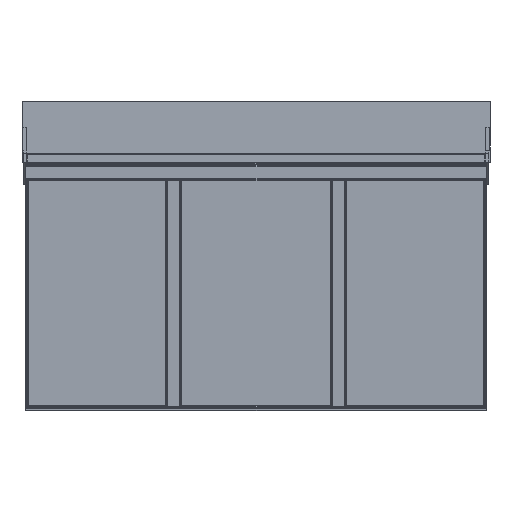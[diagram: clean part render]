
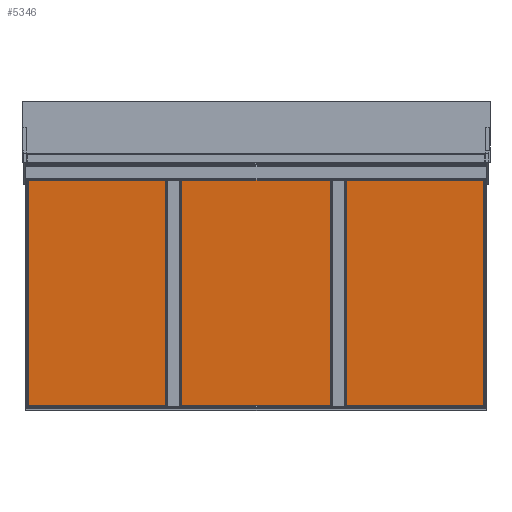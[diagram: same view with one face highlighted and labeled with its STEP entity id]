
A CAD part, front view. The second image highlights one B-rep face of the part: STEP entity #5346.
In plain terms, the highlighted planar face has unit normal (0, -0.999, -0.035) as drawn and (0, -1, 0) by its records, which use the part's own axes.
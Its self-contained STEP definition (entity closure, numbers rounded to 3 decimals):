
#7 = PLANE ( 'NONE',  #15355 ) ;
#198 = DIRECTION ( 'NONE',  ( 0., 0., 1. ) ) ;
#217 = VECTOR ( 'NONE', #5908, 1000. ) ;
#260 = VECTOR ( 'NONE', #20249, 1000. ) ;
#412 = CARTESIAN_POINT ( 'NONE',  ( 158.5, -1., -298.5 ) ) ;
#469 = ORIENTED_EDGE ( 'NONE', *, *, #20324, .F. ) ;
#527 = CARTESIAN_POINT ( 'NONE',  ( -137.5, -1., -296. ) ) ;
#1088 = VECTOR ( 'NONE', #198, 1000. ) ;
#1266 = ORIENTED_EDGE ( 'NONE', *, *, #13254, .F. ) ;
#1478 = ORIENTED_EDGE ( 'NONE', *, *, #16282, .F. ) ;
#1748 = VECTOR ( 'NONE', #8310, 1000. ) ;
#2360 = VERTEX_POINT ( 'NONE', #12044 ) ;
#2834 = ORIENTED_EDGE ( 'NONE', *, *, #11092, .F. ) ;
#2964 = ORIENTED_EDGE ( 'NONE', *, *, #11421, .F. ) ;
#2990 = VERTEX_POINT ( 'NONE', #5406 ) ;
#3003 = ORIENTED_EDGE ( 'NONE', *, *, #8050, .F. ) ;
#3014 = DIRECTION ( 'NONE',  ( -1., 0., 0. ) ) ;
#3178 = VERTEX_POINT ( 'NONE', #16548 ) ;
#3220 = VERTEX_POINT ( 'NONE', #14974 ) ;
#3223 = LINE ( 'NONE', #11265, #1748 ) ;
#3258 = DIRECTION ( 'NONE',  ( 0., 0., 1. ) ) ;
#3390 = VECTOR ( 'NONE', #3014, 1000. ) ;
#3713 = VECTOR ( 'NONE', #12338, 1000. ) ;
#3798 = CARTESIAN_POINT ( 'NONE',  ( -138., -1., -296. ) ) ;
#3910 = CARTESIAN_POINT ( 'NONE',  ( 156.5, -1., -296.5 ) ) ;
#3983 = EDGE_LOOP ( 'NONE', ( #6770, #469, #2834, #15645, #2964, #18740, #3003, #1478, #16850, #14971, #1266, #12271 ) ) ;
#4098 = VERTEX_POINT ( 'NONE', #4144 ) ;
#4144 = CARTESIAN_POINT ( 'NONE',  ( -138., -1., 298.5 ) ) ;
#4389 = CARTESIAN_POINT ( 'NONE',  ( 157.499, -1., -296.5 ) ) ;
#4513 = CARTESIAN_POINT ( 'NONE',  ( 156.5, -1., 297.499 ) ) ;
#4536 = VERTEX_POINT ( 'NONE', #3798 ) ;
#4650 = EDGE_CURVE ( 'NONE', #4949, #13638, #6314, .T. ) ;
#4842 = LINE ( 'NONE', #19204, #10393 ) ;
#4949 = VERTEX_POINT ( 'NONE', #15889 ) ;
#5346 = ADVANCED_FACE ( 'NONE', ( #9334 ), #7, .T. ) ;
#5406 = CARTESIAN_POINT ( 'NONE',  ( -156.5, -1., 298.5 ) ) ;
#5621 = VECTOR ( 'NONE', #20804, 1000. ) ;
#5908 = DIRECTION ( 'NONE',  ( 1., 0., 0. ) ) ;
#6314 = LINE ( 'NONE', #8347, #1088 ) ;
#6483 = LINE ( 'NONE', #4389, #3390 ) ;
#6493 = CARTESIAN_POINT ( 'NONE',  ( -137.5, -1., 296.5 ) ) ;
#6770 = ORIENTED_EDGE ( 'NONE', *, *, #8007, .F. ) ;
#6930 = VECTOR ( 'NONE', #15732, 1000. ) ;
#6981 = DIRECTION ( 'NONE',  ( -1., 0., 0. ) ) ;
#7463 = LINE ( 'NONE', #16852, #3713 ) ;
#7796 = DIRECTION ( 'NONE',  ( 0., 0., -1. ) ) ;
#7815 = LINE ( 'NONE', #17101, #6930 ) ;
#8007 = EDGE_CURVE ( 'NONE', #2990, #4098, #7463, .T. ) ;
#8050 = EDGE_CURVE ( 'NONE', #18287, #4949, #6483, .T. ) ;
#8060 = CARTESIAN_POINT ( 'NONE',  ( 0., -1., 0. ) ) ;
#8310 = DIRECTION ( 'NONE',  ( 0., 0., 1. ) ) ;
#8347 = CARTESIAN_POINT ( 'NONE',  ( -137.5, -1., -296.5 ) ) ;
#8959 = VECTOR ( 'NONE', #6981, 1000. ) ;
#9334 = FACE_OUTER_BOUND ( 'NONE', #3983, .T. ) ;
#9398 = CARTESIAN_POINT ( 'NONE',  ( -138., -1., 296. ) ) ;
#9443 = DIRECTION ( 'NONE',  ( 0., 0., -1. ) ) ;
#9784 = DIRECTION ( 'NONE',  ( 0., 0., -1. ) ) ;
#9852 = EDGE_CURVE ( 'NONE', #2360, #20854, #3223, .T. ) ;
#10393 = VECTOR ( 'NONE', #3258, 1000. ) ;
#10566 = CARTESIAN_POINT ( 'NONE',  ( -137.5, -1., -296. ) ) ;
#11054 = VECTOR ( 'NONE', #7796, 1000. ) ;
#11092 = EDGE_CURVE ( 'NONE', #3178, #20250, #16465, .T. ) ;
#11251 = VERTEX_POINT ( 'NONE', #9398 ) ;
#11265 = CARTESIAN_POINT ( 'NONE',  ( -137.5, -1., 296. ) ) ;
#11421 = EDGE_CURVE ( 'NONE', #13638, #4536, #18491, .T. ) ;
#11515 = EDGE_CURVE ( 'NONE', #4536, #3178, #7815, .T. ) ;
#12044 = CARTESIAN_POINT ( 'NONE',  ( -137.5, -1., 296. ) ) ;
#12271 = ORIENTED_EDGE ( 'NONE', *, *, #16894, .F. ) ;
#12338 = DIRECTION ( 'NONE',  ( 1., 0., 0. ) ) ;
#12551 = LINE ( 'NONE', #4513, #11054 ) ;
#12910 = CARTESIAN_POINT ( 'NONE',  ( -137.5, -1., 296.5 ) ) ;
#12944 = CARTESIAN_POINT ( 'NONE',  ( -138., -1., 298.5 ) ) ;
#13254 = EDGE_CURVE ( 'NONE', #11251, #2360, #20374, .T. ) ;
#13638 = VERTEX_POINT ( 'NONE', #10566 ) ;
#14971 = ORIENTED_EDGE ( 'NONE', *, *, #9852, .F. ) ;
#14974 = CARTESIAN_POINT ( 'NONE',  ( 156.5, -1., 296.5 ) ) ;
#15355 = AXIS2_PLACEMENT_3D ( 'NONE', #8060, #17442, #9443 ) ;
#15416 = EDGE_CURVE ( 'NONE', #20854, #3220, #19446, .T. ) ;
#15518 = CARTESIAN_POINT ( 'NONE',  ( -156.5, -1., -298.5 ) ) ;
#15645 = ORIENTED_EDGE ( 'NONE', *, *, #11515, .F. ) ;
#15732 = DIRECTION ( 'NONE',  ( 0., 0., -1. ) ) ;
#15744 = CARTESIAN_POINT ( 'NONE',  ( -138., -1., 296. ) ) ;
#15889 = CARTESIAN_POINT ( 'NONE',  ( -137.5, -1., -296.5 ) ) ;
#16282 = EDGE_CURVE ( 'NONE', #3220, #18287, #12551, .T. ) ;
#16465 = LINE ( 'NONE', #412, #260 ) ;
#16548 = CARTESIAN_POINT ( 'NONE',  ( -138., -1., -298.5 ) ) ;
#16850 = ORIENTED_EDGE ( 'NONE', *, *, #15416, .F. ) ;
#16852 = CARTESIAN_POINT ( 'NONE',  ( 158.5, -1., 298.5 ) ) ;
#16894 = EDGE_CURVE ( 'NONE', #4098, #11251, #18506, .T. ) ;
#17101 = CARTESIAN_POINT ( 'NONE',  ( -138., -1., -296. ) ) ;
#17442 = DIRECTION ( 'NONE',  ( 0., -1., 0. ) ) ;
#18287 = VERTEX_POINT ( 'NONE', #3910 ) ;
#18491 = LINE ( 'NONE', #527, #8959 ) ;
#18506 = LINE ( 'NONE', #12944, #19820 ) ;
#18740 = ORIENTED_EDGE ( 'NONE', *, *, #4650, .F. ) ;
#19204 = CARTESIAN_POINT ( 'NONE',  ( -156.5, -1., -298.5 ) ) ;
#19446 = LINE ( 'NONE', #12910, #5621 ) ;
#19820 = VECTOR ( 'NONE', #9784, 1000. ) ;
#20249 = DIRECTION ( 'NONE',  ( -1., 0., 0. ) ) ;
#20250 = VERTEX_POINT ( 'NONE', #15518 ) ;
#20324 = EDGE_CURVE ( 'NONE', #20250, #2990, #4842, .T. ) ;
#20374 = LINE ( 'NONE', #15744, #217 ) ;
#20804 = DIRECTION ( 'NONE',  ( 1., 0., 0. ) ) ;
#20854 = VERTEX_POINT ( 'NONE', #6493 ) ;
